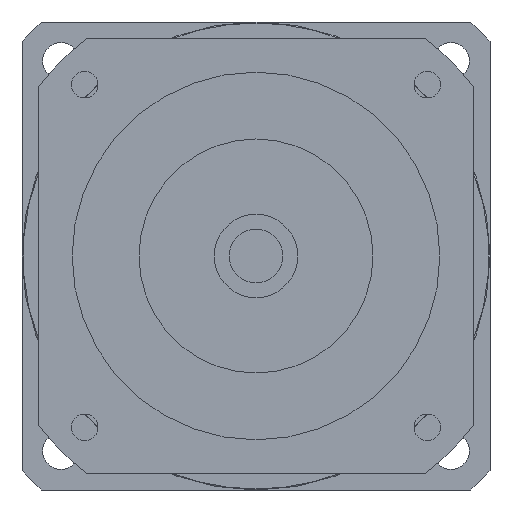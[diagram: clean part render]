
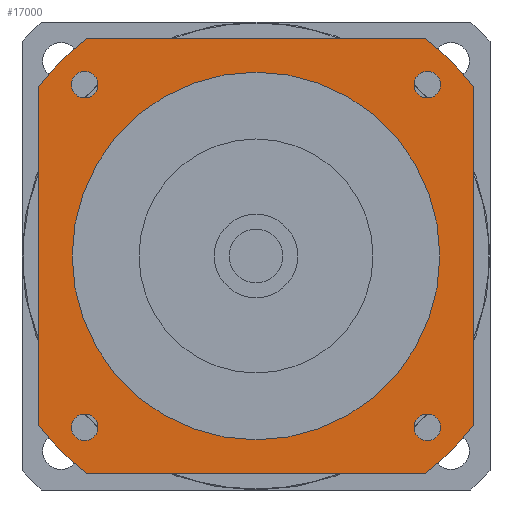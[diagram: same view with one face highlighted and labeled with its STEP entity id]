
A CAD part, left-side view. The second image highlights one B-rep face of the part: STEP entity #17000.
In plain terms, the highlighted planar face has unit normal (-1, 0, 0) as drawn and (0, 0, -1) by its records, which use the part's own axes.
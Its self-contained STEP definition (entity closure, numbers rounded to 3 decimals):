
#15300=CARTESIAN_POINT('',(55.265,-51.265,-62.7));
#15310=VERTEX_POINT('',#15300);
#15340=CARTESIAN_POINT('',(51.265,-51.265,-62.7));
#15350=DIRECTION('',(0.,0.,-1.));
#15360=DIRECTION('',(1.,0.,0.));
#15370=AXIS2_PLACEMENT_3D('',#15340,#15350,#15360);
#15380=CIRCLE('',#15370,4.);
#15390=CARTESIAN_POINT('',(47.265,-51.265,-62.7));
#15400=VERTEX_POINT('',#15390);
#15410=EDGE_CURVE('',#15400,#15310,#15380,.T.);
#15560=CARTESIAN_POINT('',(65.,65.,-62.7));
#15570=DIRECTION('',(0.,0.,-1.));
#15580=DIRECTION('',(1.,0.,0.));
#15590=AXIS2_PLACEMENT_3D('',#15560,#15570,#15580);
#15600=PLANE('',#15590);
#15610=CARTESIAN_POINT('',(-51.265,-51.265,-62.7));
#15620=DIRECTION('',(0.,0.,-1.));
#15630=DIRECTION('',(0.,-1.,0.));
#15640=AXIS2_PLACEMENT_3D('',#15610,#15620,#15630);
#15650=CIRCLE('',#15640,4.);
#15660=CARTESIAN_POINT('',(-51.265,-55.265,-62.7));
#15670=VERTEX_POINT('',#15660);
#15680=CARTESIAN_POINT('',(-51.265,-47.265,-62.7));
#15690=VERTEX_POINT('',#15680);
#15700=EDGE_CURVE('',#15670,#15690,#15650,.T.);
#15710=ORIENTED_EDGE('',*,*,#15700,.F.);
#15720=EDGE_CURVE('',#15690,#15670,#15650,.T.);
#15730=ORIENTED_EDGE('',*,*,#15720,.F.);
#15740=EDGE_LOOP('',(#15730,#15710));
#15750=FACE_BOUND('',#15740,.T.);
#15760=CARTESIAN_POINT('',(-51.265,51.265,-62.7));
#15770=DIRECTION('',(0.,0.,-1.));
#15780=DIRECTION('',(-1.,0.,0.));
#15790=AXIS2_PLACEMENT_3D('',#15760,#15770,#15780);
#15800=CIRCLE('',#15790,4.);
#15810=CARTESIAN_POINT('',(-55.265,51.265,-62.7));
#15820=VERTEX_POINT('',#15810);
#15830=CARTESIAN_POINT('',(-47.265,51.265,-62.7));
#15840=VERTEX_POINT('',#15830);
#15850=EDGE_CURVE('',#15820,#15840,#15800,.T.);
#15860=ORIENTED_EDGE('',*,*,#15850,.F.);
#15870=EDGE_CURVE('',#15840,#15820,#15800,.T.);
#15880=ORIENTED_EDGE('',*,*,#15870,.F.);
#15890=EDGE_LOOP('',(#15880,#15860));
#15900=FACE_BOUND('',#15890,.T.);
#15910=CARTESIAN_POINT('',(51.265,51.265,-62.7));
#15920=DIRECTION('',(0.,0.,-1.));
#15930=DIRECTION('',(0.,1.,0.));
#15940=AXIS2_PLACEMENT_3D('',#15910,#15920,#15930);
#15950=CIRCLE('',#15940,4.);
#15960=CARTESIAN_POINT('',(51.265,55.265,-62.7));
#15970=VERTEX_POINT('',#15960);
#15980=CARTESIAN_POINT('',(51.265,47.265,-62.7));
#15990=VERTEX_POINT('',#15980);
#16000=EDGE_CURVE('',#15970,#15990,#15950,.T.);
#16010=ORIENTED_EDGE('',*,*,#16000,.F.);
#16020=EDGE_CURVE('',#15990,#15970,#15950,.T.);
#16030=ORIENTED_EDGE('',*,*,#16020,.F.);
#16040=EDGE_LOOP('',(#16030,#16010));
#16050=FACE_BOUND('',#16040,.T.);
#16060=CARTESIAN_POINT('',(0.,0.,
-62.7));
#16070=DIRECTION('',(0.,0.,1.));
#16080=DIRECTION('',(0.,1.,0.));
#16090=AXIS2_PLACEMENT_3D('',#16060,#16070,#16080);
#16100=CIRCLE('',#16090,55.);
#16110=CARTESIAN_POINT('',(-55.,0.,-62.7));
#16120=VERTEX_POINT('',#16110);
#16130=CARTESIAN_POINT('',(55.,0.,-62.7));
#16140=VERTEX_POINT('',#16130);
#16150=EDGE_CURVE('',#16120,#16140,#16100,.T.);
#16160=ORIENTED_EDGE('',*,*,#16150,.T.);
#16170=CARTESIAN_POINT('',(0.,55.,-62.7));
#16180=VERTEX_POINT('',#16170);
#16190=EDGE_CURVE('',#16180,#16120,#16100,.T.);
#16200=ORIENTED_EDGE('',*,*,#16190,.T.);
#16210=EDGE_CURVE('',#16140,#16180,#16100,.T.);
#16220=ORIENTED_EDGE('',*,*,#16210,.T.);
#16230=EDGE_LOOP('',(#16220,#16200,#16160));
#16240=FACE_BOUND('',#16230,.T.);
#16250=CARTESIAN_POINT('',(-65.,65.,-62.7));
#16260=DIRECTION('',(1.,0.,0.));
#16270=VECTOR('',#16260,1000.);
#16280=LINE('',#16250,#16270);
#16290=CARTESIAN_POINT('',(-50.806,65.,-62.7));
#16300=VERTEX_POINT('',#16290);
#16310=CARTESIAN_POINT('',(50.806,65.,-62.7));
#16320=VERTEX_POINT('',#16310);
#16330=EDGE_CURVE('',#16300,#16320,#16280,.T.);
#16340=ORIENTED_EDGE('',*,*,#16330,.T.);
#16350=CARTESIAN_POINT('',(0.,0.,
-62.7));
#16360=DIRECTION('',(0.,0.,-1.));
#16370=DIRECTION('',(1.,0.,0.));
#16380=AXIS2_PLACEMENT_3D('',#16350,#16360,#16370);
#16390=CIRCLE('',#16380,82.5);
#16400=CARTESIAN_POINT('',(-65.,50.806,-62.7));
#16410=VERTEX_POINT('',#16400);
#16420=EDGE_CURVE('',#16410,#16300,#16390,.T.);
#16430=ORIENTED_EDGE('',*,*,#16420,.T.);
#16440=CARTESIAN_POINT('',(-65.,-65.,-62.7));
#16450=DIRECTION('',(0.,1.,0.));
#16460=VECTOR('',#16450,1000.);
#16470=LINE('',#16440,#16460);
#16480=CARTESIAN_POINT('',(-65.,-50.806,-62.7));
#16490=VERTEX_POINT('',#16480);
#16500=EDGE_CURVE('',#16490,#16410,#16470,.T.);
#16510=ORIENTED_EDGE('',*,*,#16500,.T.);
#16520=CARTESIAN_POINT('',(0.,0.,
-62.7));
#16530=DIRECTION('',(0.,0.,-1.));
#16540=DIRECTION('',(1.,0.,0.));
#16550=AXIS2_PLACEMENT_3D('',#16520,#16530,#16540);
#16560=CIRCLE('',#16550,82.5);
#16570=CARTESIAN_POINT('',(-50.806,-65.,-62.7));
#16580=VERTEX_POINT('',#16570);
#16590=EDGE_CURVE('',#16580,#16490,#16560,.T.);
#16600=ORIENTED_EDGE('',*,*,#16590,.T.);
#16610=CARTESIAN_POINT('',(65.,-65.,-62.7));
#16620=DIRECTION('',(-1.,0.,0.));
#16630=VECTOR('',#16620,1000.);
#16640=LINE('',#16610,#16630);
#16650=CARTESIAN_POINT('',(50.806,-65.,-62.7));
#16660=VERTEX_POINT('',#16650);
#16670=EDGE_CURVE('',#16660,#16580,#16640,.T.);
#16680=ORIENTED_EDGE('',*,*,#16670,.T.);
#16690=CARTESIAN_POINT('',(0.,0.,
-62.7));
#16700=DIRECTION('',(0.,0.,-1.));
#16710=DIRECTION('',(1.,0.,0.));
#16720=AXIS2_PLACEMENT_3D('',#16690,#16700,#16710);
#16730=CIRCLE('',#16720,82.5);
#16740=CARTESIAN_POINT('',(65.,-50.806,-62.7));
#16750=VERTEX_POINT('',#16740);
#16760=EDGE_CURVE('',#16750,#16660,#16730,.T.);
#16770=ORIENTED_EDGE('',*,*,#16760,.T.);
#16780=CARTESIAN_POINT('',(65.,65.,-62.7));
#16790=DIRECTION('',(0.,-1.,0.));
#16800=VECTOR('',#16790,1000.);
#16810=LINE('',#16780,#16800);
#16820=CARTESIAN_POINT('',(65.,50.806,-62.7));
#16830=VERTEX_POINT('',#16820);
#16840=EDGE_CURVE('',#16830,#16750,#16810,.T.);
#16850=ORIENTED_EDGE('',*,*,#16840,.T.);
#16860=CARTESIAN_POINT('',(0.,0.,
-62.7));
#16870=DIRECTION('',(0.,0.,-1.));
#16880=DIRECTION('',(1.,0.,0.));
#16890=AXIS2_PLACEMENT_3D('',#16860,#16870,#16880);
#16900=CIRCLE('',#16890,82.5);
#16910=EDGE_CURVE('',#16320,#16830,#16900,.T.);
#16920=ORIENTED_EDGE('',*,*,#16910,.T.);
#16930=EDGE_LOOP('',(#16920,#16850,#16770,#16680,#16600,#16510,#16430,
#16340));
#16940=FACE_OUTER_BOUND('',#16930,.T.);
#16950=EDGE_CURVE('',#15310,#15400,#15380,.T.);
#16960=ORIENTED_EDGE('',*,*,#16950,.F.);
#16970=ORIENTED_EDGE('',*,*,#15410,.F.);
#16980=EDGE_LOOP('',(#16970,#16960));
#16990=FACE_BOUND('',#16980,.T.);
#17000=ADVANCED_FACE('',(#15750,#15900,#16050,#16240,#16940,#16990),
#15600,.T.);
